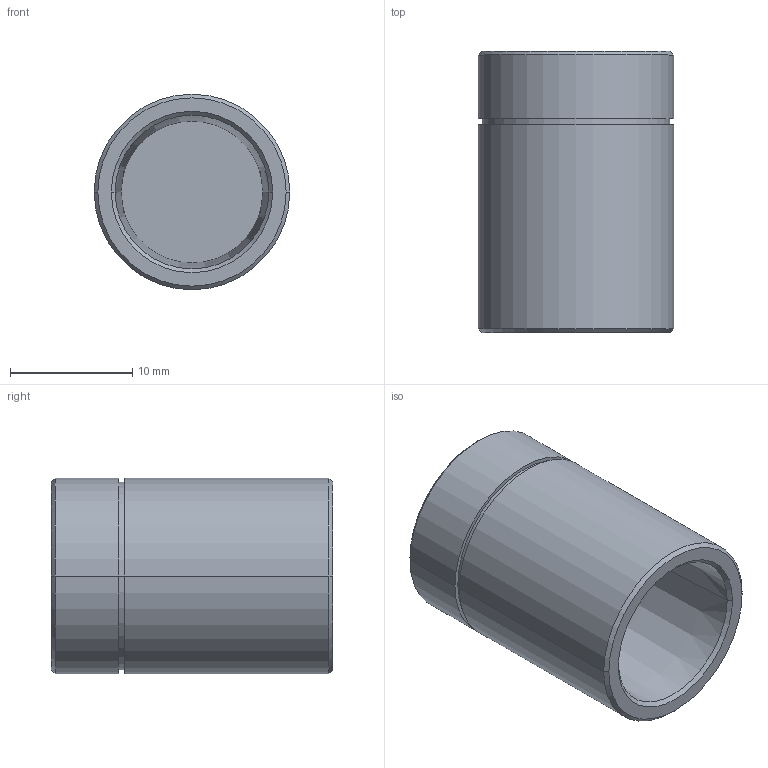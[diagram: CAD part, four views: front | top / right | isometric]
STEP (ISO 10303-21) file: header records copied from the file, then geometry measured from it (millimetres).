
FILE_DESCRIPTION (( 'STEP AP203' ), '1' );
FILE_NAME ('SW-PN-F5-23L-T.STEP', '2022-03-28T07:03:48', ( '' ), ( '' ), 'SwSTEP 2.0', 'SolidWorks 2015', '' );
FILE_SCHEMA (( 'CONFIG_CONTROL_DESIGN' ));
Length unit declared in the file: millimetre
Products named in the file (2): SW-PN-F5-23L-T
Bounding box: 16 x 23 x 16 mm (x, y, z)
Volume: 3138.3 mm3; surface area: 2124.8 mm2
Topology: 1 solids, 1 shells, 23 faces, 46 edges, 27 vertices
Faces by surface type: cone 10, cylinder 8, plane 5
Entity records: 743 total; most frequent: DIRECTION 120, CARTESIAN_POINT 96, ORIENTED_EDGE 88, AXIS2_PLACEMENT_3D 51, EDGE_CURVE 44, VERTEX_POINT 27, EDGE_LOOP 27, CIRCLE 26
